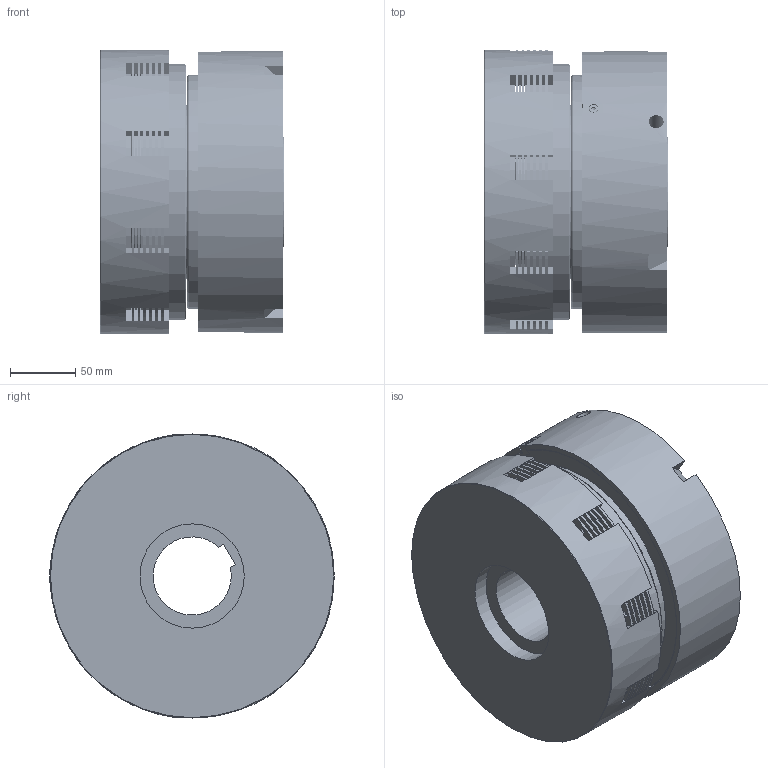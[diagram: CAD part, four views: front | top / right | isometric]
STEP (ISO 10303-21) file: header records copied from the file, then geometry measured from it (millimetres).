
FILE_DESCRIPTION(/* description */ ('','CAx-IF Rec.Pracs.---Representation and Presentation of Product Manufacturing Information (PMI)---3.8---2014-02-18'),/* implementation_level */ '2;1');
FILE_NAME(/* name */ 'T:\INVENTOR\DISEGNI\03_Friz_Oleod_Pneum_Cil_Stat\03_08 LP\03_08_010_01 LP010\03_08_010_01 LP10@STEP.stp',/* time_stamp */ '2020-06-19T12:11:37+02:00',/* author */ ('w.sartori'),/* organization */ (''),/* preprocessor_version */ 'ST-DEVELOPER v16.13',/* originating_system */ 'Autodesk Inventor 2018',/* authorisation */ '');
FILE_SCHEMA (('AP242_MANAGED_MODEL_BASED_3D_ENGINEERING_MIM_LF { 1 0 10303 442 1 1 4 }'));
Products named in the file (1): 03_08_010_01 LP10
Bounding box: 141 x 218.2 x 218 mm (x, y, z)
Volume: 3795599.8 mm3; surface area: 1129726.6 mm2
Topology: 55 solids, 76 shells, 1287 faces, 3409 edges, 2235 vertices
Faces by surface type: plane 622, cylinder 403, torus 115, cone 74, sphere 37, bspline 36
Full cylindrical faces by diameter (mm): 3 x6, 3.242 x1, 3.5 x10, 4 x91, 4.5 x1, 6.5 x1, 6.647 x9, 7 x7, 7.5 x1, 8 x9, 8.5 x9, 11.445 x1, 16 x9, 16.5 x9, 80 x1, 81.5 x2, 85 x6, 96 x1, 99.4 x3, 115.6 x3, 116 x1, 120 x9, 130 x4, 134 x1, 139.2 x4, 140 x3, 149.5 x2, 160.8 x4, 166 x1, 170 x2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
Entity records: 52374 total; most frequent: CARTESIAN_POINT 19904, DIRECTION 6797, ORIENTED_EDGE 5762, EDGE_CURVE 2878, AXIS2_PLACEMENT_3D 2751, VERTEX_POINT 2060, EDGE_LOOP 1952, STYLED_ITEM 1343
